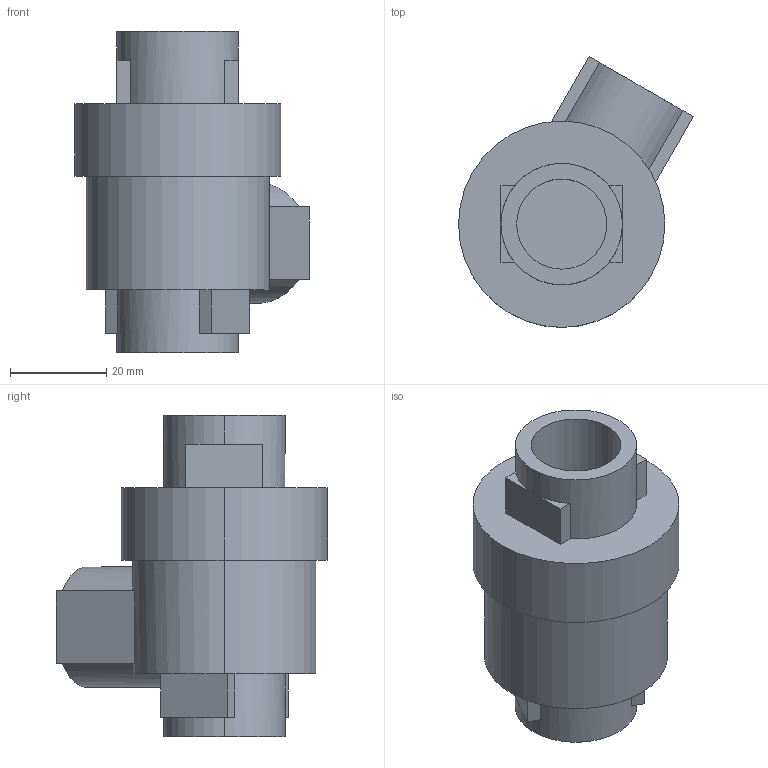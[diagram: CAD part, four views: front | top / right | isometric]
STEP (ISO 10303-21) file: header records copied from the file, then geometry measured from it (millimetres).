
FILE_DESCRIPTION((''),'2;1');
FILE_NAME('KKP-15','2023-05-11T10:42:27',('EMC02649'),(''),'CREO PARAMETRIC BY PTC INC, 2019010','CREO PARAMETRIC BY PTC INC, 2019010','');
FILE_SCHEMA(('CONFIG_CONTROL_DESIGN'));
Length unit declared in the file: millimetre
Products named in the file (1): KKP-15
Bounding box: 48.73 x 56.23 x 66.6 mm (x, y, z)
Volume: 54120.4 mm3; surface area: 15075 mm2
Topology: 1 solids, 1 shells, 51 faces, 126 edges, 82 vertices
Faces by surface type: plane 35, cylinder 16
Entity records: 1581 total; most frequent: CARTESIAN_POINT 292, DIRECTION 270, ORIENTED_EDGE 252, EDGE_CURVE 126, AXIS2_PLACEMENT_3D 97, VERTEX_POINT 82, VECTOR 76, LINE 76
